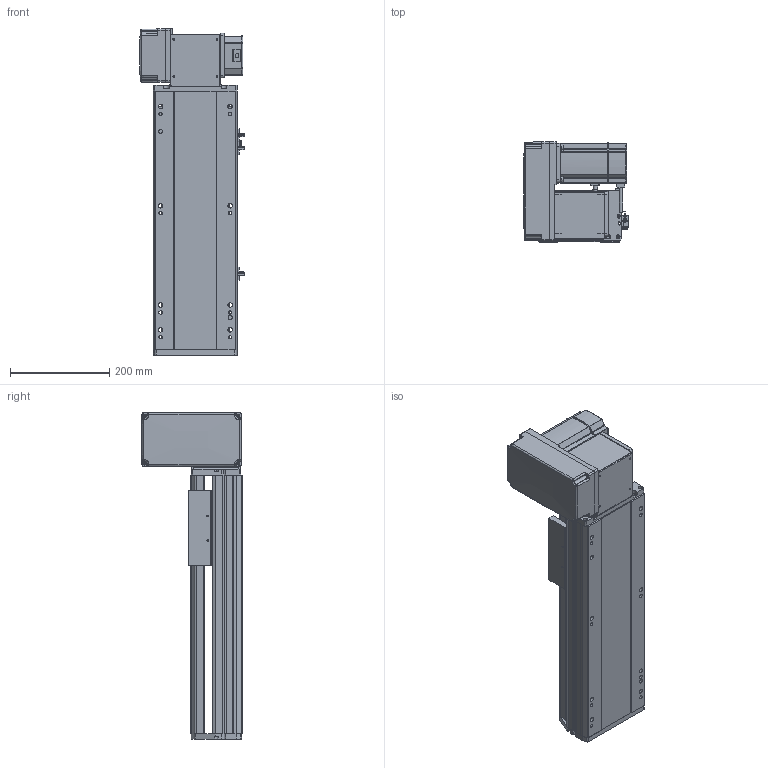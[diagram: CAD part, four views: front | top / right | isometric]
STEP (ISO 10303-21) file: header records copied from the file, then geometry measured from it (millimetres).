
FILE_DESCRIPTION (( 'STEP AP214' ), '1' );
FILE_NAME ('RTB17S-XX-250-LW-M75-C4.STEP', '2025-12-12T00:59:13', ( '' ), ( '' ), 'SwSTEP 2.0', 'SolidWorks 2018', '' );
FILE_SCHEMA (( 'AUTOMOTIVE_DESIGN' ));
Length unit declared in the file: millimetre
Products named in the file (15): RTB22S-GY-005P^RTB17S-LW-々湍釱蚾饜-750W_RTB17S-XX-XX-LW-M75-C4; RTB17S-賑釱^RTB17S-XX-XX-LW-M75-C4; RTB17S-L-014-T20-P75--々湍釱^RTB17S-LW-々湍釱蚾饜-750W_RTB17S-XX-XX-LW-M75-C4; RTB22S-GY-008-M75--萇儂啣^RTB17S-LW-々湍釱蚾饜-750W_RTB17S-XX-XX-LW-M75-C4; RTB17S-L-004-賑釱^RTB17S-賑釱_RTB17S-XX-XX-LW-M75-C4; EE672^RTB17S-XX-XX-LW-M75-C4; RTB17S-L-001-耜醱啣^RTB17S-XX-XX-LW-M75-C4; RTB17S-LW-々湍釱蚾饜-750W^RTB17S-XX-XX-LW-M75-C4; RTB17S-XX-250-LW-M75-C4; RTH13-BL-012覜茼え俋离^RTB17S-賑釱_RTB17S-XX-XX-LW-M75-C4; RTB17-R-011菁釱^RTB17S-XX-XX-LW-M75-C4; RTB22S-GY-018P^RTB17S-LW-々湍釱蚾饜-750W_RTB17S-XX-XX-LW-M75-C4; RTB17S-L-007奻裔^RTB17S-XX-XX-LW-M75-C4; RTB22S-GY-017P^RTB17S-LW-々湍釱蚾饜-750W_RTB17S-XX-XX-LW-M75-C4; 750W萇儂^RTB17S-XX-XX-LW-M75-C4
Assembly tree (17 placements, depth 3):
  RTB17S-XX-250-LW-M75-C4
    RTB17-R-011菁釱^RTB17S-XX-XX-LW-M75-C4
    EE672^RTB17S-XX-XX-LW-M75-C4  x3
    RTB17S-L-001-耜醱啣^RTB17S-XX-XX-LW-M75-C4
    RTB17S-賑釱^RTB17S-XX-XX-LW-M75-C4
      RTB17S-L-004-賑釱^RTB17S-賑釱_RTB17S-XX-XX-LW-M75-C4
      RTH13-BL-012覜茼え俋离^RTB17S-賑釱_RTB17S-XX-XX-LW-M75-C4
    RTB17S-L-007奻裔^RTB17S-XX-XX-LW-M75-C4
    750W萇儂^RTB17S-XX-XX-LW-M75-C4
    RTB17S-LW-々湍釱蚾饜-750W^RTB17S-XX-XX-LW-M75-C4
      RTB17S-L-014-T20-P75--々湍釱^RTB17S-LW-々湍釱蚾饜-750W_RTB17S-XX-XX-LW-M75-C4
      RTB22S-GY-005P^RTB17S-LW-々湍釱蚾饜-750W_RTB17S-XX-XX-LW-M75-C4
      RTB22S-GY-017P^RTB17S-LW-々湍釱蚾饜-750W_RTB17S-XX-XX-LW-M75-C4  x2
      RTB22S-GY-008-M75--萇儂啣^RTB17S-LW-々湍釱蚾饜-750W_RTB17S-XX-XX-LW-M75-C4
      RTB22S-GY-018P^RTB17S-LW-々湍釱蚾饜-750W_RTB17S-XX-XX-LW-M75-C4
Bounding box: 210.4 x 201.5 x 657.5 mm (x, y, z)
Volume: 7507527.7 mm3; surface area: 1151470.8 mm2
Topology: 17 solids, 17 shells, 2041 faces, 5620 edges, 3626 vertices
Faces by surface type: plane 964, cylinder 661, bspline 294, cone 110, sphere 8, torus 4
Entity records: 55798 total; most frequent: CARTESIAN_POINT 16284, ORIENTED_EDGE 8084, DIRECTION 7592, EDGE_CURVE 4042, AXIS2_PLACEMENT_3D 2646, VERTEX_POINT 2630, LINE 2300, VECTOR 2300
